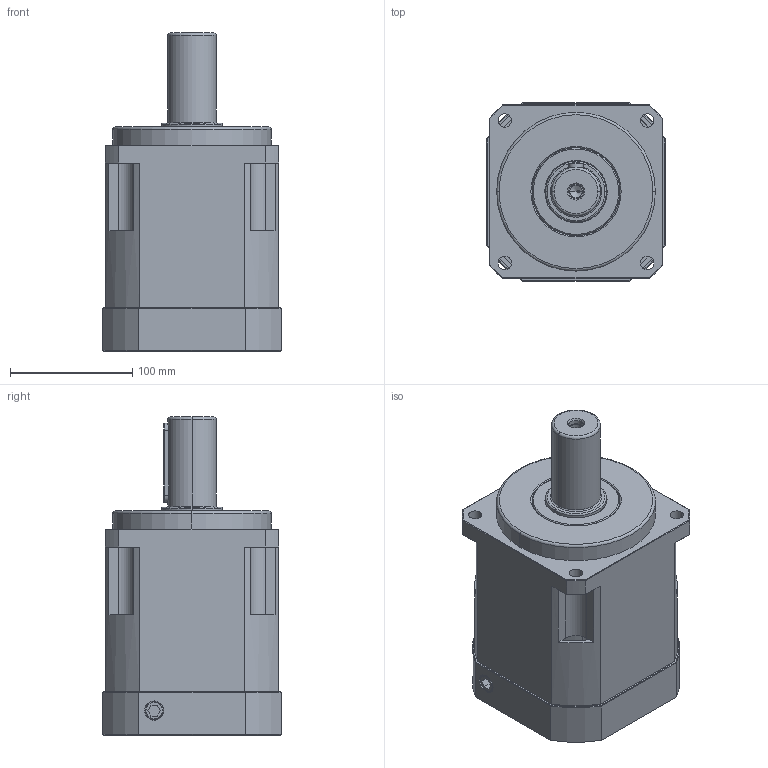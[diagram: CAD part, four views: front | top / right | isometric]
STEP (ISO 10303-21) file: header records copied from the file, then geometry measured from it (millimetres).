
FILE_DESCRIPTION (( 'STEP AP203' ), '1' );
FILE_NAME ('SB142-1-110M8-K.step', '2021-06-25T08:31:43', ( '' ), ( '' ), 'SwSTEP 2.0', 'SolidWorks 2020', '' );
FILE_SCHEMA (( 'CONFIG_CONTROL_DESIGN' ));
Length unit declared in the file: millimetre
Products named in the file (1): SB142-1-110M8-K
Bounding box: 146 x 146 x 260.5 mm (x, y, z)
Volume: 2560453.1 mm3; surface area: 305667.4 mm2
Topology: 2 solids, 15 shells, 1062 faces, 2505 edges, 1491 vertices
Faces by surface type: cylinder 356, plane 319, cone 177, torus 146, sphere 52, bspline 12
Entity records: 31958 total; most frequent: CARTESIAN_POINT 6950, DIRECTION 5789, ORIENTED_EDGE 4906, EDGE_CURVE 2453, AXIS2_PLACEMENT_3D 2402, VERTEX_POINT 1479, CIRCLE 1351, EDGE_LOOP 1164
